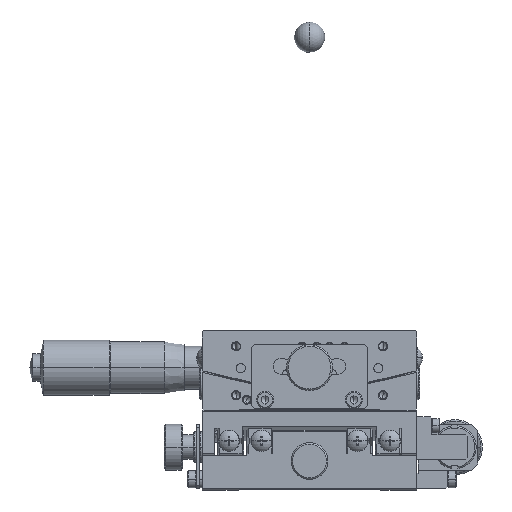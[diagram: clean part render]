
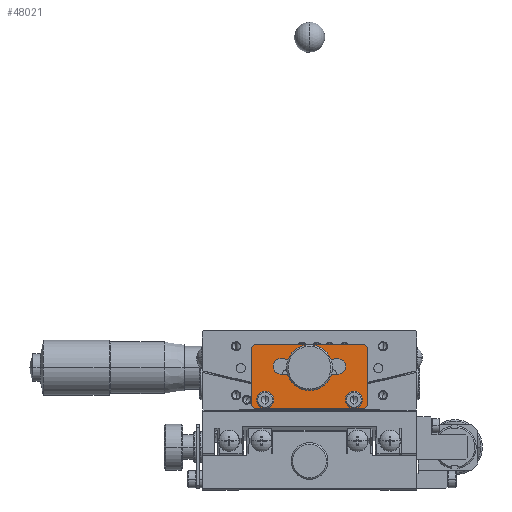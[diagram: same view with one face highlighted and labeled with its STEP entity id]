
A CAD part, left-side view. The second image highlights one B-rep face of the part: STEP entity #48021.
In plain terms, the highlighted planar face has unit normal (-1, 0, 0).
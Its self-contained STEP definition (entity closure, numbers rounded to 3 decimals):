
#8774 = CARTESIAN_POINT ( 'NONE',  ( -37., -9.631, 11.92 ) ) ;
#8939 = CARTESIAN_POINT ( 'NONE',  ( -37., -9.195, 16.901 ) ) ;
#8944 = DIRECTION ( 'NONE',  ( 0., 1., 0. ) ) ;
#8945 = DIRECTION ( 'NONE',  ( 1., 0., 0. ) ) ;
#8946 = CARTESIAN_POINT ( 'NONE',  ( -37., -9.413, 14.411 ) ) ;
#8947 = AXIS2_PLACEMENT_3D ( 'NONE', #8946, #8945, #8944 ) ;
#8948 = CIRCLE ( 'NONE', #8947, 2.5 ) ;
#9014 = DIRECTION ( 'NONE',  ( 0., -1., 0. ) ) ;
#9015 = DIRECTION ( 'NONE',  ( -1., 0., 0. ) ) ;
#9016 = CARTESIAN_POINT ( 'NONE',  ( -37., 0., 122. ) ) ;
#9017 = AXIS2_PLACEMENT_3D ( 'NONE', #9016, #9015, #9014 ) ;
#9018 = CIRCLE ( 'NONE', #9017, 105.5 ) ;
#9031 = CARTESIAN_POINT ( 'NONE',  ( -37., 9.631, 11.92 ) ) ;
#9034 = DIRECTION ( 'NONE',  ( 0., 1., 0. ) ) ;
#9035 = DIRECTION ( 'NONE',  ( 1., 0., 0. ) ) ;
#9036 = CARTESIAN_POINT ( 'NONE',  ( -37., 9.413, 14.411 ) ) ;
#9037 = AXIS2_PLACEMENT_3D ( 'NONE', #9036, #9035, #9034 ) ;
#9038 = CIRCLE ( 'NONE', #9037, 2.5 ) ;
#9096 = DIRECTION ( 'NONE',  ( 0., 1., 0. ) ) ;
#9097 = DIRECTION ( 'NONE',  ( 1., 0., 0. ) ) ;
#9098 = CARTESIAN_POINT ( 'NONE',  ( -37., 0., 122. ) ) ;
#9099 = AXIS2_PLACEMENT_3D ( 'NONE', #9098, #9097, #9096 ) ;
#9100 = CIRCLE ( 'NONE', #9099, 110.5 ) ;
#9284 = FACE_BOUND ( 'NONE', #48023, .T. ) ;
#9285 = FACE_OUTER_BOUND ( 'NONE', #48109, .T. ) ;
#9286 = FACE_BOUND ( 'NONE', #48075, .T. ) ;
#9287 = FACE_BOUND ( 'NONE', #48047, .T. ) ;
#9327 = DIRECTION ( 'NONE',  ( 0., -1., 0. ) ) ;
#9328 = DIRECTION ( 'NONE',  ( 1., 0., 0. ) ) ;
#9329 = CARTESIAN_POINT ( 'NONE',  ( -37., 14.5, 3.5 ) ) ;
#9330 = AXIS2_PLACEMENT_3D ( 'NONE', #9329, #9328, #9327 ) ;
#9331 = CIRCLE ( 'NONE', #9330, 2.45 ) ;
#9345 = DIRECTION ( 'NONE',  ( 0., 1., 0. ) ) ;
#9346 = DIRECTION ( 'NONE',  ( 1., 0., 0. ) ) ;
#9347 = CARTESIAN_POINT ( 'NONE',  ( -37., 28.5, 11. ) ) ;
#9348 = AXIS2_PLACEMENT_3D ( 'NONE', #9347, #9346, #9345 ) ;
#9349 = PLANE ( 'NONE',  #9348 ) ;
#9377 = DIRECTION ( 'NONE',  ( 0., -1., 0. ) ) ;
#9378 = DIRECTION ( 'NONE',  ( 1., 0., 0. ) ) ;
#9379 = CARTESIAN_POINT ( 'NONE',  ( -37., -14.5, 3.5 ) ) ;
#9380 = AXIS2_PLACEMENT_3D ( 'NONE', #9379, #9378, #9377 ) ;
#9381 = CIRCLE ( 'NONE', #9380, 2.45 ) ;
#9388 = DIRECTION ( 'NONE',  ( 0., 1., 0. ) ) ;
#9389 = VECTOR ( 'NONE', #9388, 1000. ) ;
#9390 = CARTESIAN_POINT ( 'NONE',  ( -37., -18., 0.5 ) ) ;
#9391 = LINE ( 'NONE', #9390, #9389 ) ;
#9393 = CARTESIAN_POINT ( 'NONE',  ( -37., 19., 1.5 ) ) ;
#9394 = CARTESIAN_POINT ( 'NONE',  ( -37., 18., 0.5 ) ) ;
#9395 = DIRECTION ( 'NONE',  ( 0., 0.707, 0.707 ) ) ;
#9396 = VECTOR ( 'NONE', #9395, 1000. ) ;
#9397 = CARTESIAN_POINT ( 'NONE',  ( -37., 18., 0.5 ) ) ;
#9398 = LINE ( 'NONE', #9397, #9396 ) ;
#9420 = CARTESIAN_POINT ( 'NONE',  ( -37., -19., 1.5 ) ) ;
#9421 = DIRECTION ( 'NONE',  ( 0., 0.707, -0.707 ) ) ;
#9422 = VECTOR ( 'NONE', #9421, 1000. ) ;
#9423 = CARTESIAN_POINT ( 'NONE',  ( -37., -19., 1.5 ) ) ;
#9424 = LINE ( 'NONE', #9423, #9422 ) ;
#9430 = CARTESIAN_POINT ( 'NONE',  ( -37., -18., 0.5 ) ) ;
#9450 = DIRECTION ( 'NONE',  ( 0., -0.707, 0.707 ) ) ;
#9451 = VECTOR ( 'NONE', #9450, 1000. ) ;
#9452 = CARTESIAN_POINT ( 'NONE',  ( -37., 19., 20.5 ) ) ;
#9453 = LINE ( 'NONE', #9452, #9451 ) ;
#9454 = CARTESIAN_POINT ( 'NONE',  ( -37., 18., 21.5 ) ) ;
#9455 = DIRECTION ( 'NONE',  ( 0., -1., 0. ) ) ;
#9456 = VECTOR ( 'NONE', #9455, 1000. ) ;
#9457 = CARTESIAN_POINT ( 'NONE',  ( -37., 18., 21.5 ) ) ;
#9458 = LINE ( 'NONE', #9457, #9456 ) ;
#9465 = CARTESIAN_POINT ( 'NONE',  ( -37., -18., 21.5 ) ) ;
#9466 = DIRECTION ( 'NONE',  ( 0., -0.707, -0.707 ) ) ;
#9467 = VECTOR ( 'NONE', #9466, 1000. ) ;
#9468 = CARTESIAN_POINT ( 'NONE',  ( -37., -18., 21.5 ) ) ;
#9469 = LINE ( 'NONE', #9468, #9467 ) ;
#9470 = CARTESIAN_POINT ( 'NONE',  ( -37., -19., 20.5 ) ) ;
#9471 = DIRECTION ( 'NONE',  ( 0., 0., -1. ) ) ;
#9472 = VECTOR ( 'NONE', #9471, 1000. ) ;
#9473 = CARTESIAN_POINT ( 'NONE',  ( -37., -19., 20.5 ) ) ;
#9474 = LINE ( 'NONE', #9473, #9472 ) ;
#9527 = DIRECTION ( 'NONE',  ( 0., 0., 1. ) ) ;
#9528 = VECTOR ( 'NONE', #9527, 1000. ) ;
#9529 = CARTESIAN_POINT ( 'NONE',  ( -37., 19., 1.5 ) ) ;
#9530 = LINE ( 'NONE', #9529, #9528 ) ;
#9536 = CARTESIAN_POINT ( 'NONE',  ( -37., 19., 20.5 ) ) ;
#47512 = VERTEX_POINT ( 'NONE', #8774 ) ;
#47650 = EDGE_CURVE ( 'NONE', #47656, #47512, #8948, .T. ) ;
#47656 = VERTEX_POINT ( 'NONE', #8939 ) ;
#47708 = EDGE_CURVE ( 'NONE', #82570, #47656, #9018, .T. ) ;
#47734 = EDGE_CURVE ( 'NONE', #47737, #82569, #9038, .T. ) ;
#47737 = VERTEX_POINT ( 'NONE', #9031 ) ;
#47800 = EDGE_CURVE ( 'NONE', #47512, #47737, #9100, .T. ) ;
#48021 = ADVANCED_FACE ( 'NONE', ( #9284, #9287, #9286, #9285 ), #9349, .F. ) ;
#48023 = EDGE_LOOP ( 'NONE', ( #48033, #48043 ) ) ;
#48033 = ORIENTED_EDGE ( 'NONE', *, *, #48036, .T. ) ;
#48036 = EDGE_CURVE ( 'NONE', #82048, #82046, #9331, .T. ) ;
#48043 = ORIENTED_EDGE ( 'NONE', *, *, #82044, .T. ) ;
#48047 = EDGE_LOOP ( 'NONE', ( #48053, #48066 ) ) ;
#48053 = ORIENTED_EDGE ( 'NONE', *, *, #48058, .T. ) ;
#48058 = EDGE_CURVE ( 'NONE', #82205, #82201, #9381, .T. ) ;
#48066 = ORIENTED_EDGE ( 'NONE', *, *, #82199, .T. ) ;
#48075 = EDGE_LOOP ( 'NONE', ( #48080, #48085, #48093, #48101, #48105 ) ) ;
#48080 = ORIENTED_EDGE ( 'NONE', *, *, #47650, .T. ) ;
#48085 = ORIENTED_EDGE ( 'NONE', *, *, #47800, .T. ) ;
#48093 = ORIENTED_EDGE ( 'NONE', *, *, #47734, .T. ) ;
#48101 = ORIENTED_EDGE ( 'NONE', *, *, #82565, .T. ) ;
#48105 = ORIENTED_EDGE ( 'NONE', *, *, #47708, .T. ) ;
#48109 = EDGE_LOOP ( 'NONE', ( #48114, #48131, #48162, #48176, #48186, #48204, #48213, #48264 ) ) ;
#48114 = ORIENTED_EDGE ( 'NONE', *, *, #48121, .F. ) ;
#48121 = EDGE_CURVE ( 'NONE', #48124, #48128, #9398, .T. ) ;
#48124 = VERTEX_POINT ( 'NONE', #9394 ) ;
#48128 = VERTEX_POINT ( 'NONE', #9393 ) ;
#48131 = ORIENTED_EDGE ( 'NONE', *, *, #48135, .F. ) ;
#48135 = EDGE_CURVE ( 'NONE', #48159, #48124, #9391, .T. ) ;
#48159 = VERTEX_POINT ( 'NONE', #9430 ) ;
#48162 = ORIENTED_EDGE ( 'NONE', *, *, #48168, .F. ) ;
#48168 = EDGE_CURVE ( 'NONE', #48173, #48159, #9424, .T. ) ;
#48173 = VERTEX_POINT ( 'NONE', #9420 ) ;
#48176 = ORIENTED_EDGE ( 'NONE', *, *, #48180, .F. ) ;
#48180 = EDGE_CURVE ( 'NONE', #48183, #48173, #9474, .T. ) ;
#48183 = VERTEX_POINT ( 'NONE', #9470 ) ;
#48186 = ORIENTED_EDGE ( 'NONE', *, *, #48191, .F. ) ;
#48191 = EDGE_CURVE ( 'NONE', #48193, #48183, #9469, .T. ) ;
#48193 = VERTEX_POINT ( 'NONE', #9465 ) ;
#48204 = ORIENTED_EDGE ( 'NONE', *, *, #48205, .F. ) ;
#48205 = EDGE_CURVE ( 'NONE', #48207, #48193, #9458, .T. ) ;
#48207 = VERTEX_POINT ( 'NONE', #9454 ) ;
#48213 = ORIENTED_EDGE ( 'NONE', *, *, #48215, .F. ) ;
#48215 = EDGE_CURVE ( 'NONE', #48260, #48207, #9453, .T. ) ;
#48260 = VERTEX_POINT ( 'NONE', #9536 ) ;
#48264 = ORIENTED_EDGE ( 'NONE', *, *, #48268, .F. ) ;
#48268 = EDGE_CURVE ( 'NONE', #48128, #48260, #9530, .T. ) ;
#65938 = CARTESIAN_POINT ( 'NONE',  ( -37., 16.95, 3.5 ) ) ;
#65940 = CARTESIAN_POINT ( 'NONE',  ( -37., 12.05, 3.5 ) ) ;
#65942 = DIRECTION ( 'NONE',  ( 0., -1., 0. ) ) ;
#65944 = DIRECTION ( 'NONE',  ( 1., 0., 0. ) ) ;
#65946 = CARTESIAN_POINT ( 'NONE',  ( -37., 14.5, 3.5 ) ) ;
#65948 = AXIS2_PLACEMENT_3D ( 'NONE', #65946, #65944, #65942 ) ;
#65949 = CIRCLE ( 'NONE', #65948, 2.45 ) ;
#66304 = CARTESIAN_POINT ( 'NONE',  ( -37., -16.95, 3.5 ) ) ;
#66306 = DIRECTION ( 'NONE',  ( 0., -1., 0. ) ) ;
#66307 = DIRECTION ( 'NONE',  ( 1., 0., 0. ) ) ;
#66309 = CARTESIAN_POINT ( 'NONE',  ( -37., -14.5, 3.5 ) ) ;
#66311 = AXIS2_PLACEMENT_3D ( 'NONE', #66309, #66307, #66306 ) ;
#66312 = CIRCLE ( 'NONE', #66311, 2.45 ) ;
#66436 = CARTESIAN_POINT ( 'NONE',  ( -37., -12.05, 3.5 ) ) ;
#67259 = CARTESIAN_POINT ( 'NONE',  ( -37., 9.195, 16.901 ) ) ;
#67261 = CARTESIAN_POINT ( 'NONE',  ( -37., 11.913, 14.411 ) ) ;
#67263 = DIRECTION ( 'NONE',  ( 0., 1., 0. ) ) ;
#67265 = DIRECTION ( 'NONE',  ( 1., 0., 0. ) ) ;
#67266 = CARTESIAN_POINT ( 'NONE',  ( -37., 9.413, 14.411 ) ) ;
#67267 = AXIS2_PLACEMENT_3D ( 'NONE', #67266, #67265, #67263 ) ;
#67269 = CIRCLE ( 'NONE', #67267, 2.5 ) ;
#82044 = EDGE_CURVE ( 'NONE', #82046, #82048, #65949, .T. ) ;
#82046 = VERTEX_POINT ( 'NONE', #65940 ) ;
#82048 = VERTEX_POINT ( 'NONE', #65938 ) ;
#82199 = EDGE_CURVE ( 'NONE', #82201, #82205, #66312, .T. ) ;
#82201 = VERTEX_POINT ( 'NONE', #66304 ) ;
#82205 = VERTEX_POINT ( 'NONE', #66436 ) ;
#82565 = EDGE_CURVE ( 'NONE', #82569, #82570, #67269, .T. ) ;
#82569 = VERTEX_POINT ( 'NONE', #67261 ) ;
#82570 = VERTEX_POINT ( 'NONE', #67259 ) ;
